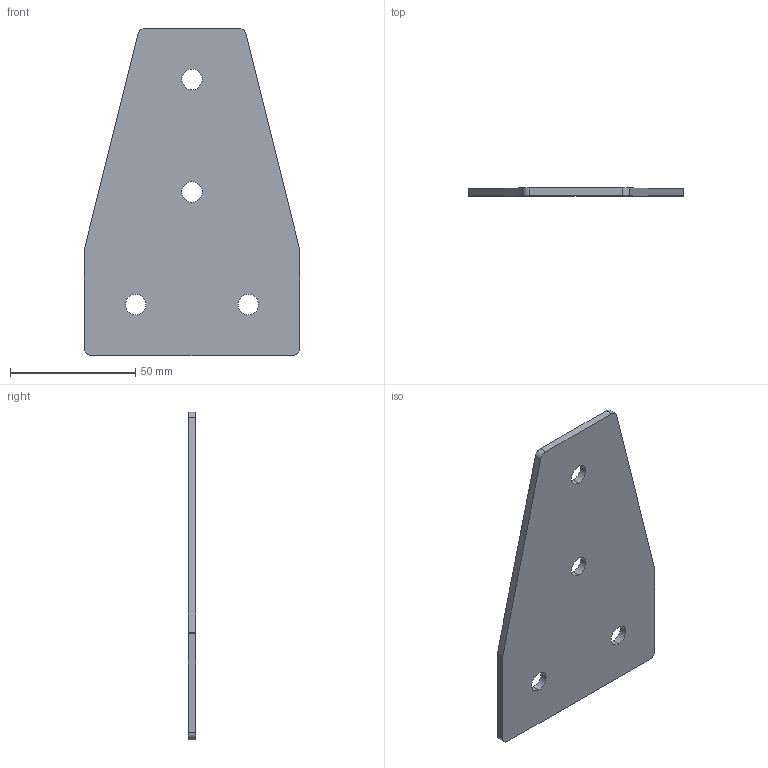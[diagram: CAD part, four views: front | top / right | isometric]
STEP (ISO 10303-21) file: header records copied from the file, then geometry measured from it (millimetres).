
FILE_DESCRIPTION (( 'STEP AP203' ), '1' );
FILE_NAME ('ﾒ-4-ﾓ-45.STEP', '2016-07-22T09:39:55', ( '' ), ( '' ), 'SwSTEP 2.0', 'SolidWorks 2014', '' );
FILE_SCHEMA (( 'CONFIG_CONTROL_DESIGN' ));
Length unit declared in the file: millimetre
Products named in the file (1): ﾒ-4-ﾓ-45
Bounding box: 86 x 3 x 131 mm (x, y, z)
Surface area: 19686.9 mm2 (no closed solid volume)
Topology: 0 solids, 1 shells, 22 faces, 60 edges, 40 vertices
Faces by surface type: cylinder 14, plane 8
Entity records: 805 total; most frequent: DIRECTION 134, CARTESIAN_POINT 123, ORIENTED_EDGE 120, EDGE_CURVE 60, AXIS2_PLACEMENT_3D 51, VERTEX_POINT 40, VECTOR 32, LINE 32
